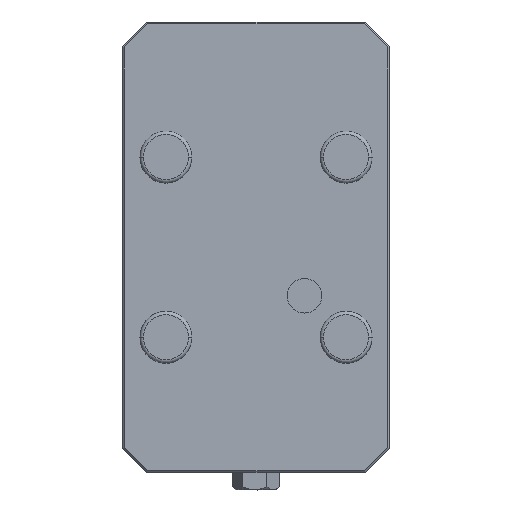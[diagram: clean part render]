
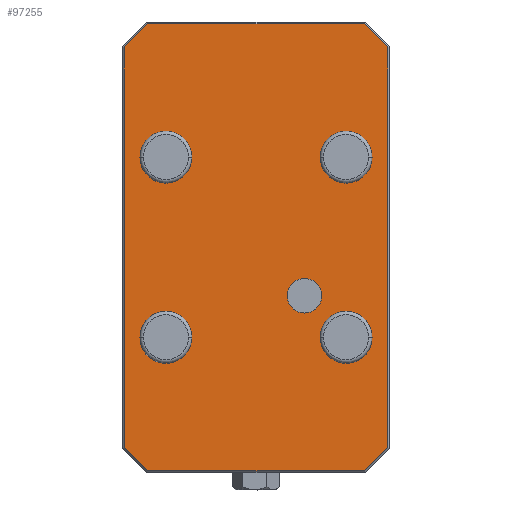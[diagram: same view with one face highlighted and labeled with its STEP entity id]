
A CAD part, top view. The second image highlights one B-rep face of the part: STEP entity #97255.
In plain terms, the highlighted planar face has unit normal (0, 0, 1).
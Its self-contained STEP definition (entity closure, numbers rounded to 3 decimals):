
#274 = CARTESIAN_POINT ( 'NONE',  ( -31.5, 64.5, 0. ) ) ;
#1812 = VECTOR ( 'NONE', #48065, 1000. ) ;
#1949 = DIRECTION ( 'NONE',  ( 1., 0., 0. ) ) ;
#2109 = AXIS2_PLACEMENT_3D ( 'NONE', #54292, #79902, #1949 ) ;
#2566 = ORIENTED_EDGE ( 'NONE', *, *, #48285, .T. ) ;
#2589 = DIRECTION ( 'NONE',  ( -0.707, 0.707, 0. ) ) ;
#2907 = CARTESIAN_POINT ( 'NONE',  ( 38., -57.793, 0. ) ) ;
#7690 = DIRECTION ( 'NONE',  ( -1., 0., 0. ) ) ;
#10291 = CARTESIAN_POINT ( 'NONE',  ( -38., -57.793, 0. ) ) ;
#10833 = LINE ( 'NONE', #75205, #31412 ) ;
#11700 = CARTESIAN_POINT ( 'NONE',  ( 31.146, 64.646, 0. ) ) ;
#11726 = EDGE_CURVE ( 'NONE', #93268, #51841, #65088, .T. ) ;
#14578 = PLANE ( 'NONE',  #47957 ) ;
#15793 = VERTEX_POINT ( 'NONE', #2907 ) ;
#15974 = DIRECTION ( 'NONE',  ( -0.707, -0.707, 0. ) ) ;
#16462 = LINE ( 'NONE', #72086, #54796 ) ;
#17073 = ORIENTED_EDGE ( 'NONE', *, *, #51694, .T. ) ;
#17368 = CARTESIAN_POINT ( 'NONE',  ( 9., -14., 0. ) ) ;
#18600 = DIRECTION ( 'NONE',  ( 0.707, -0.707, 0. ) ) ;
#18809 = VECTOR ( 'NONE', #18600, 1000. ) ;
#21016 = VERTEX_POINT ( 'NONE', #67484 ) ;
#22453 = DIRECTION ( 'NONE',  ( 0.707, 0.707, 0. ) ) ;
#24266 = VERTEX_POINT ( 'NONE', #17368 ) ;
#25274 = EDGE_CURVE ( 'NONE', #21016, #24266, #72845, .T. ) ;
#26771 = ORIENTED_EDGE ( 'NONE', *, *, #47273, .T. ) ;
#28498 = CARTESIAN_POINT ( 'NONE',  ( -38., 57.793, 0. ) ) ;
#28889 = DIRECTION ( 'NONE',  ( 1., 0., 0. ) ) ;
#29349 = CARTESIAN_POINT ( 'NONE',  ( 31.293, -64.5, 0. ) ) ;
#31412 = VECTOR ( 'NONE', #15974, 1000. ) ;
#32386 = EDGE_CURVE ( 'NONE', #35958, #52546, #82060, .T. ) ;
#33266 = EDGE_CURVE ( 'NONE', #47393, #35958, #10833, .T. ) ;
#34878 = CARTESIAN_POINT ( 'NONE',  ( 38., 57.793, 0. ) ) ;
#35958 = VERTEX_POINT ( 'NONE', #28498 ) ;
#38505 = AXIS2_PLACEMENT_3D ( 'NONE', #65271, #48060, #109943 ) ;
#40042 = ORIENTED_EDGE ( 'NONE', *, *, #32386, .T. ) ;
#41021 = VECTOR ( 'NONE', #89164, 1000. ) ;
#42094 = LINE ( 'NONE', #61475, #18809 ) ;
#43772 = ORIENTED_EDGE ( 'NONE', *, *, #73523, .F. ) ;
#47273 = EDGE_CURVE ( 'NONE', #93129, #92387, #16462, .T. ) ;
#47393 = VERTEX_POINT ( 'NONE', #93752 ) ;
#47957 = AXIS2_PLACEMENT_3D ( 'NONE', #60116, #68589, #7690 ) ;
#47968 = FACE_OUTER_BOUND ( 'NONE', #79457, .T. ) ;
#48060 = DIRECTION ( 'NONE',  ( 0., 0., 1. ) ) ;
#48065 = DIRECTION ( 'NONE',  ( 0., 1., 0. ) ) ;
#48285 = EDGE_CURVE ( 'NONE', #52546, #93129, #42094, .T. ) ;
#48796 = CARTESIAN_POINT ( 'NONE',  ( 31.293, 64.5, 0. ) ) ;
#51694 = EDGE_CURVE ( 'NONE', #15793, #93268, #81083, .T. ) ;
#51841 = VERTEX_POINT ( 'NONE', #48796 ) ;
#52546 = VERTEX_POINT ( 'NONE', #10291 ) ;
#54292 = CARTESIAN_POINT ( 'NONE',  ( 14., -14., 0. ) ) ;
#54796 = VECTOR ( 'NONE', #28889, 1000. ) ;
#55916 = EDGE_CURVE ( 'NONE', #51841, #47393, #90040, .T. ) ;
#60116 = CARTESIAN_POINT ( 'NONE',  ( -38.5, 65., 0. ) ) ;
#61475 = CARTESIAN_POINT ( 'NONE',  ( -31.146, -64.646, 0. ) ) ;
#61624 = EDGE_LOOP ( 'NONE', ( #61684, #43772 ) ) ;
#61684 = ORIENTED_EDGE ( 'NONE', *, *, #25274, .F. ) ;
#63186 = CARTESIAN_POINT ( 'NONE',  ( -38., 65., 0. ) ) ;
#65088 = LINE ( 'NONE', #11700, #76010 ) ;
#65271 = CARTESIAN_POINT ( 'NONE',  ( 14., -14., 0. ) ) ;
#66836 = VECTOR ( 'NONE', #88128, 1000. ) ;
#67484 = CARTESIAN_POINT ( 'NONE',  ( 19., -14., 0. ) ) ;
#68589 = DIRECTION ( 'NONE',  ( 0., 0., -1. ) ) ;
#72086 = CARTESIAN_POINT ( 'NONE',  ( -38.5, -64.5, 0. ) ) ;
#72480 = ORIENTED_EDGE ( 'NONE', *, *, #33266, .T. ) ;
#72845 = CIRCLE ( 'NONE', #38505, 5. ) ;
#73523 = EDGE_CURVE ( 'NONE', #24266, #21016, #74207, .T. ) ;
#74207 = CIRCLE ( 'NONE', #2109, 5. ) ;
#75205 = CARTESIAN_POINT ( 'NONE',  ( -38.146, 57.646, 0. ) ) ;
#76010 = VECTOR ( 'NONE', #2589, 1000. ) ;
#78783 = CARTESIAN_POINT ( 'NONE',  ( -31.293, -64.5, 0. ) ) ;
#79457 = EDGE_LOOP ( 'NONE', ( #26771, #106828, #17073, #112751, #80244, #72480, #40042, #2566 ) ) ;
#79902 = DIRECTION ( 'NONE',  ( 0., 0., 1. ) ) ;
#80244 = ORIENTED_EDGE ( 'NONE', *, *, #55916, .T. ) ;
#81083 = LINE ( 'NONE', #98831, #1812 ) ;
#82060 = LINE ( 'NONE', #63186, #41021 ) ;
#86277 = VECTOR ( 'NONE', #22453, 1000. ) ;
#88128 = DIRECTION ( 'NONE',  ( -1., 0., 0. ) ) ;
#88958 = FACE_BOUND ( 'NONE', #61624, .T. ) ;
#89164 = DIRECTION ( 'NONE',  ( 0., -1., 0. ) ) ;
#90040 = LINE ( 'NONE', #274, #66836 ) ;
#91764 = LINE ( 'NONE', #101182, #86277 ) ;
#92387 = VERTEX_POINT ( 'NONE', #29349 ) ;
#93129 = VERTEX_POINT ( 'NONE', #78783 ) ;
#93268 = VERTEX_POINT ( 'NONE', #34878 ) ;
#93752 = CARTESIAN_POINT ( 'NONE',  ( -31.293, 64.5, 0. ) ) ;
#97255 = ADVANCED_FACE ( 'NONE', ( #47968, #88958 ), #14578, .F. ) ;
#98831 = CARTESIAN_POINT ( 'NONE',  ( 38., 65., 0. ) ) ;
#101182 = CARTESIAN_POINT ( 'NONE',  ( 38.146, -57.646, 0. ) ) ;
#106828 = ORIENTED_EDGE ( 'NONE', *, *, #107408, .T. ) ;
#107408 = EDGE_CURVE ( 'NONE', #92387, #15793, #91764, .T. ) ;
#109943 = DIRECTION ( 'NONE',  ( 1., 0., 0. ) ) ;
#112751 = ORIENTED_EDGE ( 'NONE', *, *, #11726, .T. ) ;
